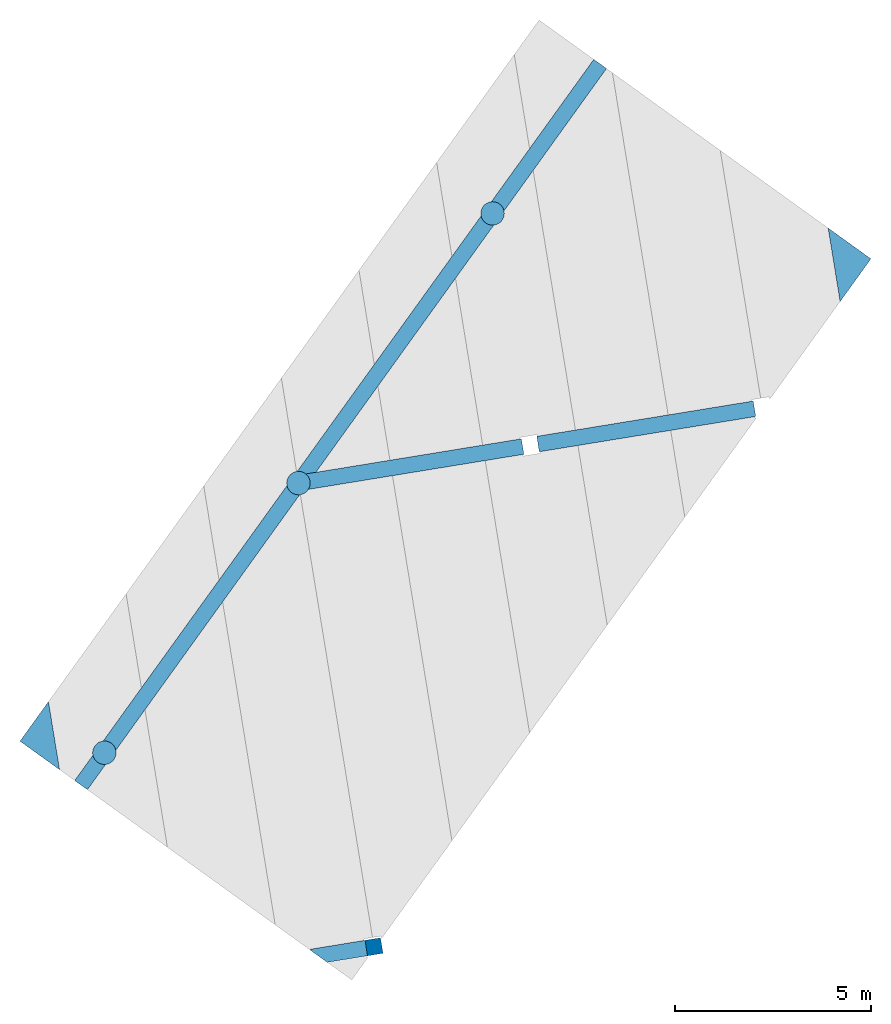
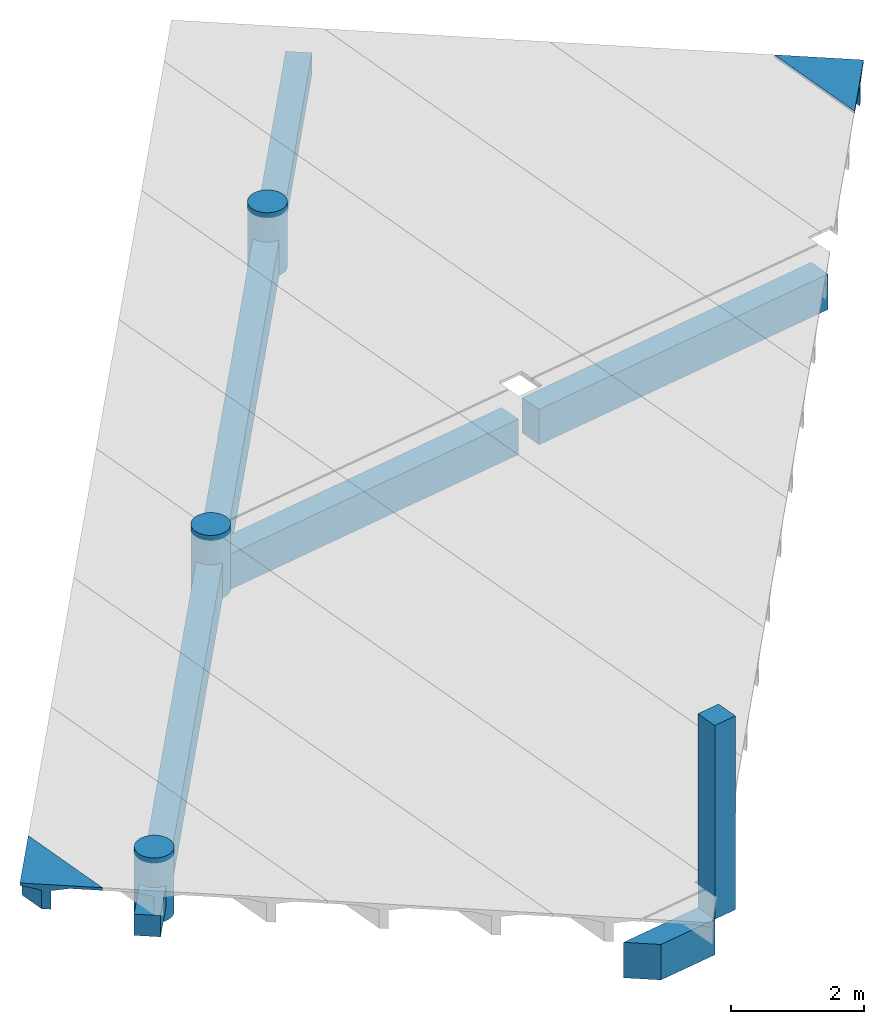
# One storey, part 1 of 3: 9 beams, 4 columns.
"""IFC2X3 building model written with IfcOpenShell, lengths in millimetres."""

import ifcopenshell
import ifcopenshell.guid

model = None  # the IFC model being written
_history = None  # IfcOwnerHistory: only IFC2X3 demands one
_inside = {}  # id of a spatial element -> (the spatial element, [elements in it])
_under = {}  # id of a project, library or spatial element -> (it, [spatial elements below it])
_declared = {}  # id of a project -> (the project, [libraries it declares])
_typed = {}  # id of a type object -> (the type object, [elements of that type])
_made_of = {}  # id of a material, layer set ... -> (it, [elements and type objects made of it])


def new_model(schema):
    """Start an empty IFC model of exactly this schema.

    Asked for "IFC4X3", IfcOpenShell would pick the latest addendum, in which some entities
    have other attributes; the version numbers below select the first issue.
    IFC2X3 requires an IfcOwnerHistory on every rooted entity: one is made here for all.
    """
    global model, _history
    if schema == "IFC4X3":
        model = ifcopenshell.file(schema_version=(4, 3, 0, 0))
    else:
        model = ifcopenshell.file(schema=schema)
    _inside.clear()
    _under.clear()
    _declared.clear()
    _typed.clear()
    _made_of.clear()
    _history = None
    if model.schema == "IFC2X3":
        org = make("IfcOrganization", Name="unknown")
        user = make(
            "IfcPersonAndOrganization",
            ThePerson=make("IfcPerson", FamilyName="unknown"),
            TheOrganization=org,
        )
        app = make(
            "IfcApplication",
            ApplicationDeveloper=org,
            Version="unknown",
            ApplicationFullName="unknown",
            ApplicationIdentifier="unknown",
        )
        _history = make(
            "IfcOwnerHistory",
            OwningUser=user,
            OwningApplication=app,
            ChangeAction="ADDED",
            CreationDate=0,
        )
    return model


def make(cls, **values):
    """One entity of the class cls with the attributes given. An attribute that is None is left unset."""
    return model.create_entity(
        cls, **{name: value for name, value in values.items() if value is not None}
    )


def entity(cls, *values):
    """Any entity or typed value of the class cls, its attributes in the order of the schema. None: left unset."""
    e = model.create_entity(cls)
    for i, value in enumerate(values):
        if value is not None:
            e[i] = value
    return e


def rooted(cls, **values):
    """An entity with a GlobalId (a new one), such as an element, a storey or a relation."""
    return make(cls, GlobalId=ifcopenshell.guid.new(), OwnerHistory=_history, **values)


def si_unit(unit_type, name, prefix=None):
    """IfcSIUnit, for example si_unit("LENGTHUNIT", "METRE", prefix="MILLI")."""
    return make("IfcSIUnit", UnitType=unit_type, Prefix=prefix, Name=name)


def converted_unit(unit_type, name, factor, base, dimensions=None, offset=None):
    """IfcConversionBasedUnit, such as the inch: factor (a typed value) times the base unit."""
    return make(
        "IfcConversionBasedUnit"
        if offset is None
        else "IfcConversionBasedUnitWithOffset",
        ConversionOffset=offset,
        Dimensions=None
        if dimensions is None
        else entity("IfcDimensionalExponents", *dimensions),
        UnitType=unit_type,
        Name=name,
        ConversionFactor=make(
            "IfcMeasureWithUnit", ValueComponent=factor, UnitComponent=base
        ),
    )


def derived_unit(unit_type, elements):
    """IfcDerivedUnit: a product of units, each with its exponent."""
    return make(
        "IfcDerivedUnit",
        Elements=[
            make("IfcDerivedUnitElement", Unit=unit, Exponent=power)
            for unit, power in elements
        ],
        UnitType=unit_type,
    )


def assignment(units):
    """IfcUnitAssignment: the units of a project."""
    return None if units is None else make("IfcUnitAssignment", Units=units)


def point(xyz):
    """IfcCartesianPoint."""
    return None if xyz is None else make("IfcCartesianPoint", Coordinates=xyz)


def direction(xyz):
    """IfcDirection."""
    return None if xyz is None else make("IfcDirection", DirectionRatios=xyz)


def frame(location, z_axis=None, x_axis=None):
    """IfcAxis2Placement3D, a coordinate frame: its origin and axes. An axis left out is left unset."""
    return make(
        "IfcAxis2Placement3D",
        Location=point(location),
        Axis=direction(z_axis),
        RefDirection=direction(x_axis),
    )


def frame_2d(location, x_axis=None):
    """IfcAxis2Placement2D, a coordinate frame in the plane: its origin and x axis."""
    return make(
        "IfcAxis2Placement2D", Location=point(location), RefDirection=direction(x_axis)
    )


def origin():
    """The frame at (0, 0, 0) with its axes left unset."""
    return frame((0.0, 0.0, 0.0))


def origin_with_axes():
    """The frame at (0, 0, 0) with the z axis (0, 0, 1) and the x axis (1, 0, 0) written out."""
    return frame((0.0, 0.0, 0.0), z_axis=(0.0, 0.0, 1.0), x_axis=(1.0, 0.0, 0.0))


def place(relative_to, where):
    """IfcLocalPlacement: puts the frame where relative to a parent placement (None: the world)."""
    return make(
        "IfcLocalPlacement", PlacementRelTo=relative_to, RelativePlacement=where
    )


def context(
    kind, dimensions, precision=None, world=None, true_north=None, identifier=None
):
    """IfcGeometricRepresentationContext, for example the 3D "Model" context."""
    return make(
        "IfcGeometricRepresentationContext",
        ContextIdentifier=identifier,
        ContextType=kind,
        CoordinateSpaceDimension=dimensions,
        Precision=precision,
        WorldCoordinateSystem=world,
        TrueNorth=true_north,
    )


def subcontext(parent, identifier, kind, view, scale=None):
    """IfcGeometricRepresentationSubContext, for example "Body" below "Model"."""
    return make(
        "IfcGeometricRepresentationSubContext",
        ContextIdentifier=identifier,
        ContextType=kind,
        ParentContext=parent,
        TargetScale=scale,
        TargetView=view,
    )


def project(units=None, contexts=None):
    """IfcProject with its units and contexts."""
    return rooted(
        "IfcProject",
        Name="project",
        RepresentationContexts=contexts,
        UnitsInContext=assignment(units),
    )


def spatial(cls, under=None, at=None, **own):
    """A site, building, storey or space (cls), placed at a placement, below another one or the project."""
    s = rooted(cls, ObjectPlacement=at, **own)
    if under is not None:
        _under.setdefault(under.id(), (under, []))[1].append(s)
    return s


def polyline(points):
    """IfcPolyline through the points."""
    return make("IfcPolyline", Points=[point(p) for p in points])


def profile(cls, at=None, kind="AREA", **sizes):
    """A parametric profile (cls). Its sizes go by their IFC names, for example OverallWidth=200.0."""
    return make(cls, ProfileType=kind, Position=at, **sizes)


def rectangle(**sizes):
    """IfcRectangleProfileDef."""
    return profile("IfcRectangleProfileDef", **sizes)


def outline(outer, holes=None, kind="AREA"):
    """IfcArbitraryClosedProfileDef: a profile drawn as a closed curve; with holes, ...WithVoids."""
    if holes is None:
        return make("IfcArbitraryClosedProfileDef", ProfileType=kind, OuterCurve=outer)
    return make(
        "IfcArbitraryProfileDefWithVoids",
        ProfileType=kind,
        OuterCurve=outer,
        InnerCurves=holes,
    )


def extrude(swept, where, along, depth):
    """IfcExtrudedAreaSolid: the profile swept, set in the frame where, extruded along a direction by depth."""
    return make(
        "IfcExtrudedAreaSolid",
        SweptArea=swept,
        Position=where,
        ExtrudedDirection=direction(along),
        Depth=depth,
    )


def faces_of(points, faces, orient=None, outer=None):
    """IfcFace entities. A face is a list of loops; a loop is a list of indices into points, from 0.

    orient and outer hold one flag for each loop. By default every Orientation is true, the
    first loop of a face is its IfcFaceOuterBound and the others are IfcFaceBound.
    """
    made = []
    for i, loops in enumerate(faces):
        bounds = []
        for j, loop in enumerate(loops):
            is_outer = j == 0 if outer is None else outer[i][j]
            bounds.append(
                make(
                    "IfcFaceOuterBound" if is_outer else "IfcFaceBound",
                    Bound=make("IfcPolyLoop", Polygon=[points[k] for k in loop]),
                    Orientation=True if orient is None else orient[i][j],
                )
            )
        made.append(make("IfcFace", Bounds=bounds))
    return made


def faceted_brep(points, faces, orient=None, outer=None, voids=None):
    """IfcFacetedBrep: a solid bounded by flat faces; with voids (closed shells), ...WithVoids."""
    shared = [point(p) for p in points]
    hull = make("IfcClosedShell", CfsFaces=faces_of(shared, faces, orient, outer))
    if voids is None:
        return make("IfcFacetedBrep", Outer=hull)
    return make(
        "IfcFacetedBrepWithVoids",
        Outer=hull,
        Voids=[
            make(cls, CfsFaces=faces_of(shared, fs, o, b)) for cls, fs, o, b in voids
        ],
    )


def shape(context_of_items, identifier, shape_type, items):
    """IfcShapeRepresentation: the items that make up one representation, for example the "Body"."""
    return make(
        "IfcShapeRepresentation",
        ContextOfItems=context_of_items,
        RepresentationIdentifier=identifier,
        RepresentationType=shape_type,
        Items=items,
    )


def material(Name=None, Category=None):
    """IfcMaterial."""
    return make("IfcMaterial", Name=Name, Category=Category)


def made_of(thing, what):
    """Note that an element or type object is made of a material, layer set ...; save() writes the relation."""
    if what is not None:
        _made_of.setdefault(what.id(), (what, []))[1].append(thing)
    return thing


def type_object(cls, material=None, **own):
    """A type object (cls), such as IfcWallType, which elements share."""
    return made_of(rooted(cls, **own), material)


def element(
    cls,
    number,
    at=None,
    inside=None,
    cuts=None,
    type_object=None,
    material=None,
    context=None,
    identifier="Body",
    shape_type=None,
    held_by="IfcProductDefinitionShape",
    body=None,
    shapes=None,
    **own,
):
    """One element of the class cls, such as IfcWall. Its Tag is "e" and its number.

    at: its placement. inside: the storey or other place that contains it. cuts: it is an
    opening in that element (IfcRelVoidsElement). A single representation is given by context,
    identifier, shape_type and body (its items); several are given by shapes. held_by: the class
    of the entity that holds the representations. save() writes the other relations.
    """
    e = rooted(cls, Tag="e%d" % number, ObjectPlacement=at, **own)
    if body is not None:
        shapes = [shape(context, identifier, shape_type, body)]
    if shapes is not None:
        e.Representation = make(held_by, Representations=shapes)
    if inside is not None:
        _inside.setdefault(inside.id(), (inside, []))[1].append(e)
    if cuts is not None:
        rooted(
            "IfcRelVoidsElement", RelatingBuildingElement=cuts, RelatedOpeningElement=e
        )
    if type_object is not None:
        _typed.setdefault(type_object.id(), (type_object, []))[1].append(e)
    return made_of(e, material)


def aggregate(whole, parts):
    """IfcRelAggregates: a whole, such as a stair, and the parts it consists of."""
    return rooted("IfcRelAggregates", RelatingObject=whole, RelatedObjects=parts)


def save(model, path):
    """Write the relations noted so far, then the file.

    IfcRelAggregates (storeys below a building ...), IfcRelContainedInSpatialStructure (elements
    in a storey), IfcRelDefinesByType, IfcRelAssociatesMaterial and IfcRelDeclares: one each for
    every whole, place, type object, material and project.
    """
    for whole, parts in _under.values():
        aggregate(whole, parts)
    for where, things in _inside.values():
        rooted(
            "IfcRelContainedInSpatialStructure",
            RelatedElements=things,
            RelatingStructure=where,
        )
    for kind, things in _typed.values():
        rooted("IfcRelDefinesByType", RelatedObjects=things, RelatingType=kind)
    for what, things in _made_of.values():
        rooted("IfcRelAssociatesMaterial", RelatedObjects=things, RelatingMaterial=what)
    for by, libraries in _declared.values():
        rooted("IfcRelDeclares", RelatingContext=by, RelatedDefinitions=libraries)
    model.write(path)


model = new_model("IFC2X3")

# Units and contexts
model_context = context("Model", 3, precision=0.01, world=origin(), true_north=direction((6.12323399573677e-17, 1.0)))
plan_context = context("Plan", 3, precision=1e-05, world=origin_with_axes())
body_context = subcontext(model_context, "Body", "Model", "MODEL_VIEW")
ifc_project = project(units=[converted_unit("PLANEANGLEUNIT", "DEGREE", entity("IfcPositiveLengthMeasure", 0.0174532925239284), si_unit("PLANEANGLEUNIT", "RADIAN"), dimensions=[0, 0, 0, 0, 0, 0, 0]), si_unit("AREAUNIT", "SQUARE_METRE"), si_unit("LENGTHUNIT", "METRE", prefix="MILLI"), si_unit("MASSUNIT", "GRAM", prefix="KILO"), si_unit("POWERUNIT", "WATT"), si_unit("PRESSUREUNIT", "PASCAL", prefix="KILO"), si_unit("FORCEUNIT", "NEWTON", prefix="KILO"), si_unit("ELECTRICVOLTAGEUNIT", "VOLT"), si_unit("ELECTRICCURRENTUNIT", "AMPERE"), si_unit("THERMODYNAMICTEMPERATUREUNIT", "DEGREE_CELSIUS"), si_unit("TIMEUNIT", "SECOND"), si_unit("VOLUMEUNIT", "CUBIC_METRE"), derived_unit("LINEARVELOCITYUNIT", [(si_unit("LENGTHUNIT", "METRE"), 1), (si_unit("TIMEUNIT", "SECOND"), -1)]), derived_unit("VOLUMETRICFLOWRATEUNIT", [(si_unit("VOLUMEUNIT", "CUBIC_METRE"), 1), (si_unit("TIMEUNIT", "SECOND"), -1)]), derived_unit("THERMALTRANSMITTANCEUNIT", [(si_unit("POWERUNIT", "WATT"), 1), (si_unit("THERMODYNAMICTEMPERATUREUNIT", "KELVIN"), -1), (si_unit("AREAUNIT", "SQUARE_METRE"), -1)]), derived_unit("SOUNDPRESSUREUNIT", [(si_unit("PRESSUREUNIT", "PASCAL"), 1)])], contexts=[model_context, plan_context])

# Site, building, storey
site_placement = place(None, frame((5.09380697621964e-08, 5.80416781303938e-08, 0.0), z_axis=(0.0, 0.0, 1.0), x_axis=(-0.160806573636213, 0.986985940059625, 0.0)))
site = spatial("IfcSite", under=ifc_project, at=site_placement, Name="Default", CompositionType="ELEMENT")
building_placement = place(site_placement, frame((0.0, 0.0, 0.0), z_axis=(0.0, 0.0, 1.0), x_axis=(1.0, -2.77555756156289e-17, 0.0)))
building = spatial("IfcBuilding", under=site, at=building_placement, CompositionType="ELEMENT")
storey_placement = place(building_placement, frame((0.0, 0.0, 51360.0000000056), z_axis=(0.0, 0.0, 1.0), x_axis=(1.0, -2.77555756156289e-17, 0.0)))
storey = spatial("IfcBuildingStorey", under=building, at=storey_placement, Name="H01-Nivå D+0,36", CompositionType="ELEMENT", Elevation=51360.0000000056)

# Columns
column_type_1 = type_object("IfcColumnType", Name="400*400", PredefinedType="NOTDEFINED")
column_1_placement = place(storey_placement, frame((0.0, 0.0, 0.0), z_axis=(0.0, 0.0, 1.0), x_axis=(1.0, -2.77555756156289e-17, 0.0)))
element("IfcColumn", 1, at=column_1_placement, inside=storey, type_object=column_type_1, Name="PLASSTØPTSØYLE", ObjectType="400*400", context=body_context, shape_type="SweptSolid", body=[
    extrude(rectangle(XDim=3550.0, YDim=400.000000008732, at=frame_2d((-1.17815091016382e-09, -4.32009983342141e-12), x_axis=(0.0, 1.0))), frame((992438.344355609, -342380.329445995, 5304.99999999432), z_axis=(1.0, 5.17557262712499e-06, -3.10214160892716e-09), x_axis=(5.17557262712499e-06, -1.0, 0.0)), (0.0, 0.0, 1.0), 400.000000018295),
])
column_type_2 = type_object("IfcColumnType", Name="D600", PredefinedType="NOTDEFINED")
column_2_placement = place(storey_placement, frame((0.0, 0.0, 0.0), z_axis=(0.0, 0.0, 1.0), x_axis=(1.0, -2.77555756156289e-17, 0.0)))
element("IfcColumn", 2, at=column_2_placement, inside=storey, type_object=column_type_2, Name="PLASSTØPTSØYLE", ObjectType="D600", context=body_context, shape_type="SweptSolid", body=[
    extrude(outline(polyline([(-23.5377287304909, -299.07520013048), (23.5377287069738, -299.07520013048), (70.0336091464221, -291.710976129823), (114.805029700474, -277.163859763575), (156.749569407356, -255.792049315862), (194.834414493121, -228.121789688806), (228.121789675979, -194.834414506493), (255.79204930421, -156.749569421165), (277.163859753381, -114.805029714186), (291.710976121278, -70.0336091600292), (299.075200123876, -23.5377287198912), (299.075200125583, 23.5377287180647), (291.710976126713, 70.0336091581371), (277.163859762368, 114.805029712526), (255.792049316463, 156.749569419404), (228.121789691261, 194.834414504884), (194.834414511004, 228.121789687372), (156.749569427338, 255.792049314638), (114.805029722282, 277.163859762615), (70.0336091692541, 291.710976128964), (23.5377287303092, 299.075200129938), (-23.5377287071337, 299.075200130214), (-70.0336091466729, 291.710976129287), (-114.805029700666, 277.163859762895), (-156.74956940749, 255.792049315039), (-194.834414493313, 228.121789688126), (-228.12178967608, 194.834414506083), (-255.792049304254, 156.749569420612), (-277.163859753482, 114.805029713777), (-291.710976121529, 70.0336091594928), (-299.075200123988, 23.537728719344), (-299.075200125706, -23.5377287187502), (-291.710976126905, -70.0336091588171), (-277.163859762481, -114.805029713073), (-255.792049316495, -156.749569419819), (-228.121789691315, -194.834414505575), (-194.834414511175, -228.121789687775), (-156.749569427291, -255.79204931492), (-114.805029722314, -277.16385976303), (-70.0336091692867, -291.710976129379), (-23.5377287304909, -299.07520013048)])), frame((1010638.37087845, -348380.248873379, 2879.9999999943), z_axis=(0.0, 0.0, 1.0), x_axis=(0.0784642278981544, -0.996916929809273, 0.0)), (0.0, 0.0, 1.0), 1190.00000000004),
])
column_3_placement = place(storey_placement, frame((0.0, 0.0, 0.0), z_axis=(0.0, 0.0, 1.0), x_axis=(1.0, -2.77555756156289e-17, 0.0)))
element("IfcColumn", 3, at=column_3_placement, inside=storey, type_object=column_type_2, Name="PLASSTØPTSØYLE", ObjectType="D600", context=body_context, shape_type="SweptSolid", body=[
    extrude(outline(polyline([(-23.5377287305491, -299.075200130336), (23.5377287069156, -299.075200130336), (70.0336091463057, -291.710976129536), (114.805029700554, -277.163859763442), (156.749569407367, -255.792049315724), (194.834414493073, -228.121789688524), (228.12178967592, -194.834414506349), (255.792049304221, -156.749569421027), (277.163859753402, -114.80502971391), (291.710976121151, -70.0336091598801), (299.075200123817, -23.5377287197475), (299.075200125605, 23.5377287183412), (291.710976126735, 70.0336091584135), (277.163859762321, 114.805029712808), (255.792049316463, 156.749569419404), (228.121789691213, 194.834414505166), (194.834414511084, 228.121789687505), (156.749569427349, 255.792049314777), (114.805029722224, 277.163859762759), (70.0336091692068, 291.710976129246), (23.537728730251, 299.075200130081), (-23.5377287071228, 299.075200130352), (-70.033609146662, 291.710976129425), (-114.805029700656, 277.163859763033), (-156.749569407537, 255.79204931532), (-194.83441449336, 228.121789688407), (-228.121789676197, 194.834414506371), (-255.792049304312, 156.749569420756), (-277.163859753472, 114.805029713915), (-291.710976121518, 70.0336091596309), (-299.075200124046, 23.5377287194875), (-299.075200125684, -23.5377287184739), (-291.710976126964, -70.0336091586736), (-277.163859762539, -114.805029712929), (-255.792049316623, -156.74956941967), (-228.121789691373, -194.834414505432), (-194.834414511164, -228.121789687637), (-156.749569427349, -255.792049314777), (-114.805029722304, -277.163859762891), (-70.0336091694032, -291.710976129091), (-23.5377287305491, -299.075200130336)])), frame((1004638.34436327, -342380.27538765, 2879.9999999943), z_axis=(0.0, 0.0, 1.0), x_axis=(0.0784642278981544, -0.996916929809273, 0.0)), (0.0, 0.0, 1.0), 1190.00000000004),
])
column_4_placement = place(storey_placement, frame((0.0, 0.0, 0.0), z_axis=(0.0, 0.0, 1.0), x_axis=(1.0, -2.77555756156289e-17, 0.0)))
element("IfcColumn", 4, at=column_4_placement, inside=storey, type_object=column_type_2, Name="PLASSTØPTSØYLE", ObjectType="D600", context=body_context, shape_type="SweptSolid", body=[
    extrude(outline(polyline([(-23.5377287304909, -299.07520013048), (23.5377287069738, -299.07520013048), (70.0336091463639, -291.710976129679), (114.805029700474, -277.163859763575), (156.749569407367, -255.792049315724), (194.8344144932, -228.121789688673), (228.121789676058, -194.83441450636), (255.79204930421, -156.749569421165), (277.163859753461, -114.805029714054), (291.710976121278, -70.0336091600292), (299.075200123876, -23.5377287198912), (299.075200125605, 23.5377287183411), (291.710976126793, 70.0336091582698), (277.163859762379, 114.805029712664), (255.792049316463, 156.749569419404), (228.121789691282, 194.834414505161), (194.834414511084, 228.121789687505), (156.749569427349, 255.792049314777), (114.805029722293, 277.163859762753), (70.033609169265, 291.710976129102), (23.5377287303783, 299.075200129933), (-23.5377287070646, 299.075200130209), (-70.033609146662, 291.710976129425), (-114.805029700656, 277.163859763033), (-156.749569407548, 255.792049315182), (-194.834414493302, 228.121789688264), (-228.121789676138, 194.834414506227), (-255.792049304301, 156.749569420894), (-277.163859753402, 114.80502971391), (-291.71097612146, 70.0336091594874), (-299.075200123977, 23.5377287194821), (-299.075200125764, -23.5377287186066), (-291.710976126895, -70.0336091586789), (-277.16385976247, -114.805029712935), (-255.792049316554, -156.749569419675), (-228.121789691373, -194.834414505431), (-194.834414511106, -228.121789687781), (-156.74956942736, -255.792049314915), (-114.805029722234, -277.163859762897), (-70.033609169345, -291.710976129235), (-23.5377287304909, -299.07520013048)])), frame((998638.317848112, -336380.301901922, 2879.9999999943), z_axis=(0.0, 0.0, 1.0), x_axis=(0.0784642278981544, -0.996916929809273, 0.0)), (0.0, 0.0, 1.0), 1190.00000000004),
])

# Beams
ifc_material = material(Name="CONCRETE/C55/67 171016")
beam_type_1 = type_object("IfcBeamType", Name="650*400", PredefinedType="NOTDEFINED")
beam_1_placement = place(storey_placement, frame((0.0, 0.0, 0.0), z_axis=(0.0, 0.0, 1.0), x_axis=(1.0, -2.77555756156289e-17, 0.0)))
element("IfcBeam", 5, at=beam_1_placement, inside=storey, type_object=beam_type_1, material=ifc_material, Name="PLASSTØPTBJELKE", ObjectType="650*400", context=body_context, shape_type="SweptSolid", body=[
    extrude(rectangle(XDim=650.000000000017, YDim=5599.99995658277, at=frame_2d((-4.32009983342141e-12, -3.47881723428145e-11), x_axis=(1.0, 0.0))), frame((1004438.38371091, -351380.276219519, 3204.99999999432), z_axis=(1.0, 4.26751171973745e-06, 0.0), x_axis=(0.0, 0.0, -1.0)), (0.0, 0.0, 1.0), 400.000000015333),
])
beam_2_placement = place(storey_placement, frame((0.0, 0.0, 0.0), z_axis=(0.0, 0.0, 1.0), x_axis=(1.0, -2.77555756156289e-17, 0.0)))
element("IfcBeam", 6, at=beam_2_placement, inside=storey, type_object=beam_type_1, material=ifc_material, Name="PLASSTØPTBJELKE", ObjectType="650*400", context=body_context, shape_type="SweptSolid", body=[
    extrude(rectangle(XDim=650.000000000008, YDim=400.000000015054, at=frame_2d((8.66862137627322e-12, -7.34985405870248e-11), x_axis=(1.0, 0.0))), frame((998779.739822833, -336521.722639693, 3204.99999999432), z_axis=(0.70710946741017, -0.707104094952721, 0.0), x_axis=(0.0, 0.0, 1.0)), (0.0, 0.0, 1.0), 8085.28011202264),
])
beam_3_placement = place(storey_placement, frame((0.0, 0.0, 0.0), z_axis=(0.0, 0.0, 1.0), x_axis=(1.0, -2.77555756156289e-17, 0.0)))
element("IfcBeam", 7, at=beam_3_placement, inside=storey, type_object=beam_type_1, material=ifc_material, Name="PLASSTØPTBJELKE", ObjectType="650*400", context=body_context, shape_type="SweptSolid", body=[
    extrude(rectangle(XDim=650.000000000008, YDim=400.000000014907, at=frame_2d((8.66862137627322e-12, -7.34985405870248e-11), x_axis=(1.0, 0.0))), frame((1004779.76633801, -342521.696125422, 3204.99999999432), z_axis=(0.70710946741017, -0.707104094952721, 0.0), x_axis=(0.0, 0.0, 1.0)), (0.0, 0.0, 1.0), 8085.28011202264),
])
beam_4_placement = place(storey_placement, frame((0.0, 0.0, 0.0), z_axis=(0.0, 0.0, 1.0), x_axis=(1.0, -2.77555756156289e-17, 0.0)))
element("IfcBeam", 8, at=beam_4_placement, inside=storey, type_object=beam_type_1, material=ifc_material, Name="PLASSTØPTBJELKE", ObjectType="650*400", context=body_context, shape_type="SweptSolid", body=[
    extrude(rectangle(XDim=650.000000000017, YDim=5599.99995658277, at=frame_2d((-4.32009983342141e-12, 3.47881723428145e-11), x_axis=(1.0, 0.0))), frame((1004438.35719613, -345380.276219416, 3204.99999999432), z_axis=(1.0, 4.26751171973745e-06, 0.0), x_axis=(0.0, 0.0, -1.0)), (0.0, 0.0, 1.0), 400.000000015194),
])
beam_5_placement = place(storey_placement, frame((0.0, 0.0, 0.0), z_axis=(0.0, 0.0, 1.0), x_axis=(1.0, -2.77555756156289e-17, 0.0)))
element("IfcBeam", 9, at=beam_5_placement, inside=storey, type_object=beam_type_1, Name="PLASSTØPTBJELKE", ObjectType="650*400", context=body_context, shape_type="Brep", body=[
    faceted_brep([(1010921.21367216, -348380.247717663, 3139.99999999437), (1014106.81610774, -351565.825949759, 3139.99999999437), (1014106.81610774, -351565.825949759, 3529.99999999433), (1010921.21367216, -348380.247717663, 3529.99999999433), (1013823.97339526, -351848.668662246, 3529.99999999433), (1010638.37203417, -348663.091504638, 3529.99999999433), (1013823.97339526, -351848.668662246, 3139.99999999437), (1010638.37203417, -348663.091504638, 3139.99999999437)], [[[0, 1, 2, 3]], [[2, 4, 5, 3]], [[4, 6, 7, 5]], [[7, 0, 3, 5]], [[6, 4, 2, 1]], [[1, 0, 7, 6]]], orient=[[False], [False], [False], [False], [False], [False]]),
])
beam_6_placement = place(storey_placement, frame((0.0, 0.0, 0.0), z_axis=(0.0, 0.0, 1.0), x_axis=(1.0, -2.77555756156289e-17, 0.0)))
element("IfcBeam", 10, at=beam_6_placement, inside=storey, type_object=beam_type_1, Name="PLASSTØPTBJELKE", ObjectType="650*400", context=body_context, shape_type="Brep", body=[
    faceted_brep([(998058.490902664, -335517.645004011, 3529.99999999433), (998058.490902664, -335517.645004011, 3139.99999999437), (998638.312240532, -336097.461936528, 3139.99999999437), (998638.312240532, -336097.461936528, 3529.99999999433), (997775.648190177, -335800.487716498, 3529.99999999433), (998355.47060254, -336380.305723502, 3529.99999999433), (998355.47060254, -336380.305723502, 3139.99999999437), (997775.648190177, -335800.487716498, 3139.99999999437)], [[[0, 1, 2, 3]], [[4, 0, 3, 5]], [[6, 7, 4, 5]], [[2, 6, 5, 3]], [[1, 0, 4, 7]], [[7, 6, 2, 1]]], orient=[[False], [False], [False], [False], [False], [False]]),
])
beam_7_placement = place(storey_placement, frame((0.0, 0.0, 0.0), z_axis=(0.0, 0.0, 1.0), x_axis=(1.0, -2.77555756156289e-17, 0.0)))
element("IfcBeam", 11, at=beam_7_placement, inside=storey, type_object=beam_type_1, Name="PLASSTØPTBJELKE", ObjectType="650*400", context=body_context, shape_type="Brep", body=[
    faceted_brep([(992438.33818059, -341137.797726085, 3529.99999999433), (992838.336473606, -340737.798165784, 3529.99999999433), (992838.342629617, -342180.327519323, 3529.99999999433), (992438.342629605, -342180.329226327, 3529.99999999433), (992838.342629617, -342180.327519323, 2879.99999999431), (992438.342629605, -342180.329226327, 2879.99999999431), (992838.336473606, -340737.798165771, 2879.99999999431), (992438.33818059, -341137.797726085, 2879.99999999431), (992838.336473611, -340737.799433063, 2879.99999999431), (992838.336473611, -340737.799433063, 3529.99999999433)], [[[0, 1, 2, 3]], [[3, 2, 4, 5]], [[6, 7, 5, 4]], [[7, 0, 3, 5]], [[1, 6, 4, 2]], [[7, 8, 9, 0]]], orient=[[False], [False], [False], [False], [False], [False]]),
])
beam_type_2 = type_object("IfcBeamType", Name="DT450*2400-100-50-1200-0-200-0.3", PredefinedType="NOTDEFINED")
beam_8_placement = place(storey_placement, frame((0.0, 0.0, 0.0), z_axis=(0.0, 0.0, 1.0), x_axis=(1.0, -2.77555756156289e-17, 0.0)))
element("IfcBeam", 12, at=beam_8_placement, inside=storey, type_object=beam_type_2, Name="DT", ObjectType="DT450*2400-100-50-1200-0-200-0.3", context=body_context, shape_type="Brep", body=[
    faceted_brep([(1008892.3885583, -356780.253499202, 3979.99999999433), (1007940.92533631, -357731.716721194, 3979.99999999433), (1006989.4719106, -356780.263295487, 3979.99999999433), (1007839.46753482, -357630.258919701, 3929.99999999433), (1007940.92533631, -357731.716721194, 3929.99999999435), (1008042.38418242, -357630.257875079, 3929.99999999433), (1008242.38521204, -357430.256845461, 3869.99999999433), (1007639.46856441, -357430.259949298, 3869.99999999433), (1008242.36673587, -357430.256845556, 3529.99999999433), (1007639.48393675, -357430.259949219, 3529.99999999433), (1008342.38572685, -357330.256330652, 3529.99999999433), (1007539.46907921, -357330.260464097, 3529.99999999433), (1008342.36673587, -357330.25633075, 3869.99999999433), (1007539.48393675, -357330.26046402, 3869.99999999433), (1008542.38675647, -357130.255301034, 3929.99999999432), (1007339.47010881, -357130.261493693, 3929.99999999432), (1008892.3885583, -356780.253499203, 3929.99999999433), (1006989.4719106, -356780.263295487, 3929.99999999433), (1008342.38572685, -357330.256330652, 3869.99999999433), (1008242.38521204, -357430.256845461, 3529.99999999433), (1007639.46856441, -357430.259949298, 3529.99999999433), (1007539.46907921, -357330.260464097, 3869.99999999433)], [[[0, 1, 2]], [[3, 4, 5]], [[5, 6, 7, 3]], [[6, 8, 9, 7]], [[8, 10, 11, 9]], [[10, 12, 13, 11]], [[12, 14, 15, 13]], [[14, 16, 17, 15]], [[16, 0, 2, 17]], [[1, 0, 16, 14, 18, 10, 19, 6, 5, 4]], [[4, 3, 7, 20, 11, 21, 15, 17, 2, 1]]], orient=[[False], [False], [False], [False], [False], [False], [False], [False], [False], [False], [False]]),
])
beam_9_placement = place(storey_placement, frame((992653.301064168, -335180.32834997, 3529.99999999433), z_axis=(0.0, 0.0, 1.0), x_axis=(1.0, -2.77555756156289e-17, 0.0)))
element("IfcBeam", 13, at=beam_9_placement, inside=storey, type_object=beam_type_2, Name="DT", ObjectType="DT450*2400-100-50-1200-0-200-0.3", context=body_context, shape_type="Brep", body=[
    faceted_brep([(5742.54656975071, 0.0295625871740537, 400.0), (5742.54656975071, 0.0295625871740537, 450.0), (7502.4104006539, 0.0386223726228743, 450.0), (7502.4104006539, 0.0386223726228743, 400.0), (6092.53785688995, 350.031364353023, 400.0), (7152.41365727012, 350.036820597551, 400.0), (6292.53888650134, 550.032393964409, 340.0), (6952.41468686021, 550.035791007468, 340.0), (6292.54373834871, 550.032393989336, 0.0), (6952.4132320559, 550.035790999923, 0.0), (6392.53940130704, 650.032908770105, 0.0), (6852.41520165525, 650.035276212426, 0.0), (6392.5432235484, 650.032908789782, 340.0), (6852.41374685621, 650.035276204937, 340.0), (6592.54043091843, 850.033938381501, 400.0), (6652.41623124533, 850.034246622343, 400.0), (6622.4784852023, 879.971992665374, 400.0), (6622.47848520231, 879.971992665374, 450.0), (6852.41520165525, 650.035276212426, 340.0), (6952.41468686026, 550.035791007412, 0.0), (7502.41185548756, 0.0386223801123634, 400.0), (7502.41185548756, 0.0386223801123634, 450.0), (5742.53605506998, 0.0295625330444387, 450.0), (5742.53605506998, 0.0295625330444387, 400.0), (6292.53888650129, 550.032393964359, 0.0), (6392.53940130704, 650.032908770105, 340.0)], [[[0, 1, 2, 3]], [[4, 0, 3, 5]], [[6, 4, 5, 7]], [[8, 6, 7, 9]], [[10, 8, 9, 11]], [[12, 10, 11, 13]], [[14, 12, 13, 15]], [[15, 16, 14]], [[1, 17, 2]], [[16, 15, 18, 11, 19, 7, 5, 20, 21, 17]], [[17, 22, 23, 4, 6, 24, 10, 25, 14, 16]]], orient=[[False], [False], [False], [False], [False], [False], [False], [False], [False], [False], [False]]),
])

save(model, "model.ifc")
